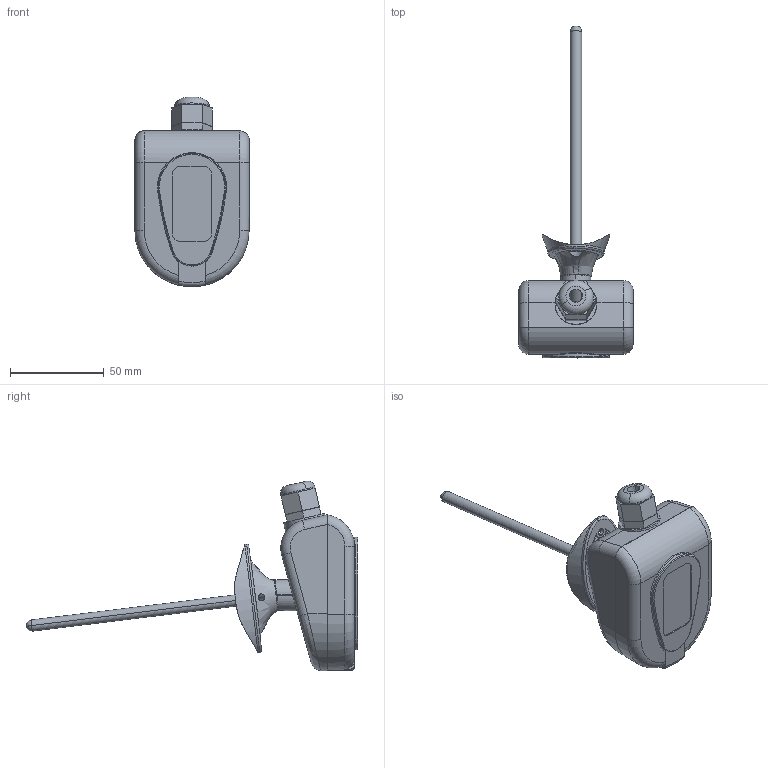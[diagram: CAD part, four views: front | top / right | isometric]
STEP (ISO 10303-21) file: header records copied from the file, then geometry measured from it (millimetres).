
FILE_DESCRIPTION (( 'STEP AP203' ), '1' );
FILE_NAME ('Ñáîðêà HTF150.STEP', '2019-10-08T11:32:32', ( '' ), ( '' ), 'SwSTEP 2.0', 'SolidWorks 2016', '' );
FILE_SCHEMA (( 'CONFIG_CONTROL_DESIGN' ));
Length unit declared in the file: millimetre
Products named in the file (13): 砎鍒鍱 2; 櫻蠉錪7^栖闉罻; 櫻蠉錪8^栖闉罻; ïëàòà, êðóãëàÿ; Êîðïóñ_„«ï âàã¡®ª; 婑鳧氀 MF-6; Êðûøêà; HTF150-PT1000-PVC-2; 秮鶋罻; Ãåðìîââîä; Êëåìíèê; 栖闉罻 HTF150; 砎鍒鍱 1
Assembly tree (12 placements, depth 2):
  栖闉罻 HTF150
    Êîðïóñ_„«ï âàã¡®ª
    Êðûøêà
    秮鶋罻
    Êëåìíèê
    砎鍒鍱 1
    砎鍒鍱 2
    櫻蠉錪7^栖闉罻
    櫻蠉錪8^栖闉罻
    ïëàòà, êðóãëàÿ
    婑鳧氀 MF-6
    HTF150-PT1000-PVC-2
    Ãåðìîââîä
Bounding box: 61.05 x 177.32 x 101.33 mm (x, y, z)
Volume: 65624.4 mm3; surface area: 65324.6 mm2
Topology: 12 solids, 12 shells, 536 faces, 1360 edges, 888 vertices
Faces by surface type: plane 256, cylinder 183, bspline 45, torus 33, cone 17, sphere 2
Entity records: 28015 total; most frequent: CARTESIAN_POINT 14046, ORIENTED_EDGE 2712, DIRECTION 2477, EDGE_CURVE 1356, AXIS2_PLACEMENT_3D 909, VERTEX_POINT 886, VECTOR 659, LINE 659
